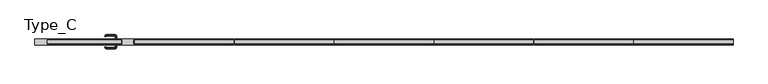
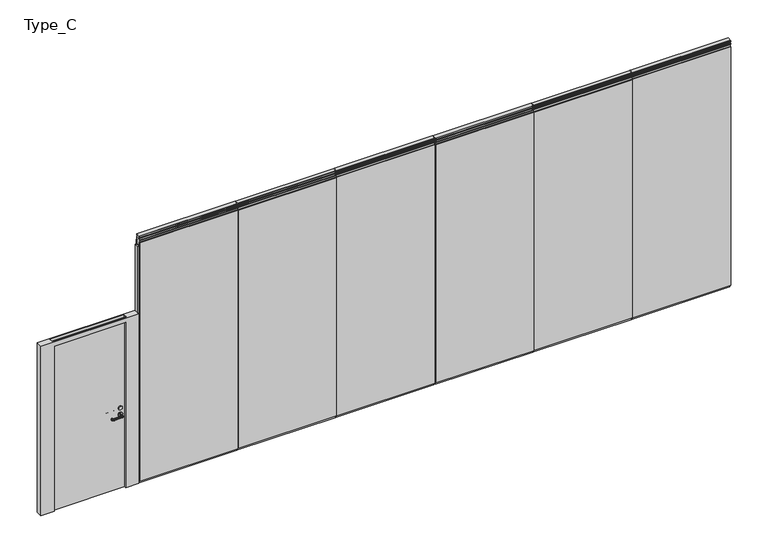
"""IFC4 building model written with IfcOpenShell, lengths in millimetres: proxy geometry, Planner Wall フラッシュパネル(Door) : Type_C."""

from ifc_helpers import new_model, si_unit, point, frame, frame_2d, origin, origin_with_axes, place, context, project, spatial, polyline, circle_curve, ellipse_curve, trimmed, segment, composite_curve, outline, extrude, faceted_brep, source, transform, mapped, element, save
from ifc_brep_helpers import plane_surface, cylinder_surface, revolved_surface, advanced_brep


def type_c_fbdfbec6(model_context):
    return source(origin(), model_context, "Body", "SolidModel", [
        extrude(outline(polyline([(2324.75, 25.0), (1177.125, 25.0), (1177.125, 35.0), (2324.75, 35.0), (2324.75, 25.0)])), frame((0.0, 0.0, 25.0), z_axis=(0.0, 0.0, 1.0), x_axis=(1.0, 0.0, 0.0)), (0.0, 0.0, 1.0), 2950.0),
        extrude(outline(polyline([(2324.75, -35.0), (1177.125, -35.0), (1177.125, -25.0), (2324.75, -25.0), (2324.75, -35.0)])), frame((0.0, 0.0, 25.0), z_axis=(0.0, 0.0, 1.0), x_axis=(1.0, 0.0, 0.0)), (0.0, 0.0, 1.0), 2950.0),
        extrude(outline(polyline([(1177.125, -25.0), (1177.125, 25.0), (2319.25, 25.0), (2319.25, -25.0), (1177.125, -25.0)])), origin_with_axes(), (0.0, 0.0, 1.0), 65.0),
        extrude(outline(composite_curve([segment(polyline([(23.5, 3050.1000003), (26.5, 3047.1000003), (26.5, 3032.6)]), True, "CONTINUOUS"), segment(trimmed(circle_curve(frame_2d((25.0, 3032.6)), 1.5), [point((26.5, 3032.6))], [point((25.0, 3031.1))], False, "CARTESIAN"), True, "CONTINUOUS"), segment(polyline([(25.0, 3031.1), (9.0, 3031.1), (9.0, 3019.1000003), (23.5, 3019.1000003), (26.5, 3016.1000003), (26.5, 3001.5)]), True, "CONTINUOUS"), segment(trimmed(circle_curve(frame_2d((25.0, 3001.5)), 1.5), [point((26.5, 3001.5))], [point((25.0, 3000.0))], False, "CARTESIAN"), True, "CONTINUOUS"), segment(polyline([(25.0, 3000.0), (7.5, 3000.0), (7.5, 2994.5), (25.0, 2994.5), (25.0, 2935.0), (-25.0, 2935.0), (-25.0, 2994.5), (-7.5, 2994.5), (-7.5, 3000.0), (-25.0, 3000.0)]), True, "CONTINUOUS"), segment(trimmed(circle_curve(frame_2d((-25.0, 3001.5)), 1.5), [point((-25.0, 3000.0))], [point((-26.5, 3001.5))], False, "CARTESIAN"), True, "CONTINUOUS"), segment(polyline([(-26.5, 3001.5), (-26.5, 3016.1000003), (-23.5, 3019.1000003), (-9.0, 3019.1000003), (-9.0, 3031.1), (-25.0, 3031.1)]), True, "CONTINUOUS"), segment(trimmed(circle_curve(frame_2d((-25.0, 3032.6)), 1.5), [point((-25.0, 3031.1))], [point((-26.5, 3032.6))], False, "CARTESIAN"), True, "CONTINUOUS"), segment(polyline([(-26.5, 3032.6), (-26.5, 3047.1000003), (-23.5, 3050.1000003), (23.5, 3050.1000003)]), True, "CONTINUOUS")], self_intersect=False)), frame((1177.125, 0.0, 0.0), z_axis=(1.0, 0.0, 0.0), x_axis=(0.0, 1.0, 0.0)), (0.0, 0.0, 1.0), 1147.625),
        extrude(outline(polyline([(1163.625, -25.0), (1163.625, 25.0), (1177.125, 25.0), (1177.125, -25.0), (1163.625, -25.0)])), frame((0.0, 0.0, 53.0), z_axis=(0.0, 0.0, 1.0), x_axis=(1.0, 0.0, 0.0)), (0.0, 0.0, 1.0), 2869.0),
        extrude(outline(polyline([(3480.375, 25.0), (2332.75, 25.0), (2332.75, 35.0), (3480.375, 35.0), (3480.375, 25.0)])), frame((0.0, 0.0, 25.0), z_axis=(0.0, 0.0, 1.0), x_axis=(1.0, 0.0, 0.0)), (0.0, 0.0, 1.0), 2950.0),
        extrude(outline(polyline([(3480.375, -35.0), (2332.75, -35.0), (2332.75, -25.0), (3480.375, -25.0), (3480.375, -35.0)])), frame((0.0, 0.0, 25.0), z_axis=(0.0, 0.0, 1.0), x_axis=(1.0, 0.0, 0.0)), (0.0, 0.0, 1.0), 2950.0),
        extrude(outline(polyline([(2332.75, -25.0), (2332.75, 25.0), (3474.875, 25.0), (3474.875, -25.0), (2332.75, -25.0)])), origin_with_axes(), (0.0, 0.0, 1.0), 65.0),
        extrude(outline(composite_curve([segment(polyline([(23.5, 3050.1000003), (26.5, 3047.1000003), (26.5, 3032.6)]), True, "CONTINUOUS"), segment(trimmed(circle_curve(frame_2d((25.0, 3032.6)), 1.5), [point((26.5, 3032.6))], [point((25.0, 3031.1))], False, "CARTESIAN"), True, "CONTINUOUS"), segment(polyline([(25.0, 3031.1), (9.0, 3031.1), (9.0, 3019.1000003), (23.5, 3019.1000003), (26.5, 3016.1000003), (26.5, 3001.5)]), True, "CONTINUOUS"), segment(trimmed(circle_curve(frame_2d((25.0, 3001.5)), 1.5), [point((26.5, 3001.5))], [point((25.0, 3000.0))], False, "CARTESIAN"), True, "CONTINUOUS"), segment(polyline([(25.0, 3000.0), (7.5, 3000.0), (7.5, 2994.5), (25.0, 2994.5), (25.0, 2935.0), (-25.0, 2935.0), (-25.0, 2994.5), (-7.5, 2994.5), (-7.5, 3000.0), (-25.0, 3000.0)]), True, "CONTINUOUS"), segment(trimmed(circle_curve(frame_2d((-25.0, 3001.5)), 1.5), [point((-25.0, 3000.0))], [point((-26.5, 3001.5))], False, "CARTESIAN"), True, "CONTINUOUS"), segment(polyline([(-26.5, 3001.5), (-26.5, 3016.1000003), (-23.5, 3019.1000003), (-9.0, 3019.1000003), (-9.0, 3031.1), (-25.0, 3031.1)]), True, "CONTINUOUS"), segment(trimmed(circle_curve(frame_2d((-25.0, 3032.6)), 1.5), [point((-25.0, 3031.1))], [point((-26.5, 3032.6))], False, "CARTESIAN"), True, "CONTINUOUS"), segment(polyline([(-26.5, 3032.6), (-26.5, 3047.1000003), (-23.5, 3050.1000003), (23.5, 3050.1000003)]), True, "CONTINUOUS")], self_intersect=False)), frame((2332.75, 0.0, 0.0), z_axis=(1.0, 0.0, 0.0), x_axis=(0.0, 1.0, 0.0)), (0.0, 0.0, 1.0), 1147.625),
        extrude(outline(polyline([(2319.25, -25.0), (2319.25, 25.0), (2332.75, 25.0), (2332.75, -25.0), (2319.25, -25.0)])), frame((0.0, 0.0, 53.0), z_axis=(0.0, 0.0, 1.0), x_axis=(1.0, 0.0, 0.0)), (0.0, 0.0, 1.0), 2869.0),
        extrude(outline(polyline([(4636.0, 25.0), (3488.375, 25.0), (3488.375, 35.0), (4636.0, 35.0), (4636.0, 25.0)])), frame((0.0, 0.0, 25.0), z_axis=(0.0, 0.0, 1.0), x_axis=(1.0, 0.0, 0.0)), (0.0, 0.0, 1.0), 2950.0),
        extrude(outline(polyline([(4636.0, -35.0), (3488.375, -35.0), (3488.375, -25.0), (4636.0, -25.0), (4636.0, -35.0)])), frame((0.0, 0.0, 25.0), z_axis=(0.0, 0.0, 1.0), x_axis=(1.0, 0.0, 0.0)), (0.0, 0.0, 1.0), 2950.0),
        extrude(outline(polyline([(3488.375, -25.0), (3488.375, 25.0), (4630.5, 25.0), (4630.5, -25.0), (3488.375, -25.0)])), origin_with_axes(), (0.0, 0.0, 1.0), 65.0),
        extrude(outline(composite_curve([segment(polyline([(23.5, 3050.1000003), (26.5, 3047.1000003), (26.5, 3032.6)]), True, "CONTINUOUS"), segment(trimmed(circle_curve(frame_2d((25.0, 3032.6)), 1.5), [point((26.5, 3032.6))], [point((25.0, 3031.1))], False, "CARTESIAN"), True, "CONTINUOUS"), segment(polyline([(25.0, 3031.1), (9.0, 3031.1), (9.0, 3019.1000003), (23.5, 3019.1000003), (26.5, 3016.1000003), (26.5, 3001.5)]), True, "CONTINUOUS"), segment(trimmed(circle_curve(frame_2d((25.0, 3001.5)), 1.5), [point((26.5, 3001.5))], [point((25.0, 3000.0))], False, "CARTESIAN"), True, "CONTINUOUS"), segment(polyline([(25.0, 3000.0), (7.5, 3000.0), (7.5, 2994.5), (25.0, 2994.5), (25.0, 2935.0), (-25.0, 2935.0), (-25.0, 2994.5), (-7.5, 2994.5), (-7.5, 3000.0), (-25.0, 3000.0)]), True, "CONTINUOUS"), segment(trimmed(circle_curve(frame_2d((-25.0, 3001.5)), 1.5), [point((-25.0, 3000.0))], [point((-26.5, 3001.5))], False, "CARTESIAN"), True, "CONTINUOUS"), segment(polyline([(-26.5, 3001.5), (-26.5, 3016.1000003), (-23.5, 3019.1000003), (-9.0, 3019.1000003), (-9.0, 3031.1), (-25.0, 3031.1)]), True, "CONTINUOUS"), segment(trimmed(circle_curve(frame_2d((-25.0, 3032.6)), 1.5), [point((-25.0, 3031.1))], [point((-26.5, 3032.6))], False, "CARTESIAN"), True, "CONTINUOUS"), segment(polyline([(-26.5, 3032.6), (-26.5, 3047.1000003), (-23.5, 3050.1000003), (23.5, 3050.1000003)]), True, "CONTINUOUS")], self_intersect=False)), frame((3488.375, 0.0, 0.0), z_axis=(1.0, 0.0, 0.0), x_axis=(0.0, 1.0, 0.0)), (0.0, 0.0, 1.0), 1147.625),
        extrude(outline(polyline([(3474.875, -25.0), (3474.875, 25.0), (3488.375, 25.0), (3488.375, -25.0), (3474.875, -25.0)])), frame((0.0, 0.0, 53.0), z_axis=(0.0, 0.0, 1.0), x_axis=(1.0, 0.0, 0.0)), (0.0, 0.0, 1.0), 2869.0),
        extrude(outline(polyline([(5791.625, 25.0), (4644.0, 25.0), (4644.0, 35.0), (5791.625, 35.0), (5791.625, 25.0)])), frame((0.0, 0.0, 25.0), z_axis=(0.0, 0.0, 1.0), x_axis=(1.0, 0.0, 0.0)), (0.0, 0.0, 1.0), 2950.0),
        extrude(outline(polyline([(5791.625, -35.0), (4644.0, -35.0), (4644.0, -25.0), (5791.625, -25.0), (5791.625, -35.0)])), frame((0.0, 0.0, 25.0), z_axis=(0.0, 0.0, 1.0), x_axis=(1.0, 0.0, 0.0)), (0.0, 0.0, 1.0), 2950.0),
        extrude(outline(polyline([(4644.0, -25.0), (4644.0, 25.0), (5786.125, 25.0), (5786.125, -25.0), (4644.0, -25.0)])), origin_with_axes(), (0.0, 0.0, 1.0), 65.0),
        extrude(outline(composite_curve([segment(polyline([(23.5, 3050.1000003), (26.5, 3047.1000003), (26.5, 3032.6)]), True, "CONTINUOUS"), segment(trimmed(circle_curve(frame_2d((25.0, 3032.6)), 1.5), [point((26.5, 3032.6))], [point((25.0, 3031.1))], False, "CARTESIAN"), True, "CONTINUOUS"), segment(polyline([(25.0, 3031.1), (9.0, 3031.1), (9.0, 3019.1000003), (23.5, 3019.1000003), (26.5, 3016.1000003), (26.5, 3001.5)]), True, "CONTINUOUS"), segment(trimmed(circle_curve(frame_2d((25.0, 3001.5)), 1.5), [point((26.5, 3001.5))], [point((25.0, 3000.0))], False, "CARTESIAN"), True, "CONTINUOUS"), segment(polyline([(25.0, 3000.0), (7.5, 3000.0), (7.5, 2994.5), (25.0, 2994.5), (25.0, 2935.0), (-25.0, 2935.0), (-25.0, 2994.5), (-7.5, 2994.5), (-7.5, 3000.0), (-25.0, 3000.0)]), True, "CONTINUOUS"), segment(trimmed(circle_curve(frame_2d((-25.0, 3001.5)), 1.5), [point((-25.0, 3000.0))], [point((-26.5, 3001.5))], False, "CARTESIAN"), True, "CONTINUOUS"), segment(polyline([(-26.5, 3001.5), (-26.5, 3016.1000003), (-23.5, 3019.1000003), (-9.0, 3019.1000003), (-9.0, 3031.1), (-25.0, 3031.1)]), True, "CONTINUOUS"), segment(trimmed(circle_curve(frame_2d((-25.0, 3032.6)), 1.5), [point((-25.0, 3031.1))], [point((-26.5, 3032.6))], False, "CARTESIAN"), True, "CONTINUOUS"), segment(polyline([(-26.5, 3032.6), (-26.5, 3047.1000003), (-23.5, 3050.1000003), (23.5, 3050.1000003)]), True, "CONTINUOUS")], self_intersect=False)), frame((4644.0, 0.0, 0.0), z_axis=(1.0, 0.0, 0.0), x_axis=(0.0, 1.0, 0.0)), (0.0, 0.0, 1.0), 1147.625),
        extrude(outline(polyline([(4630.5, -25.0), (4630.5, 25.0), (4644.0, 25.0), (4644.0, -25.0), (4630.5, -25.0)])), frame((0.0, 0.0, 53.0), z_axis=(0.0, 0.0, 1.0), x_axis=(1.0, 0.0, 0.0)), (0.0, 0.0, 1.0), 2869.0),
        extrude(outline(polyline([(6947.25, 25.0), (5799.625, 25.0), (5799.625, 35.0), (6947.25, 35.0), (6947.25, 25.0)])), frame((0.0, 0.0, 25.0), z_axis=(0.0, 0.0, 1.0), x_axis=(1.0, 0.0, 0.0)), (0.0, 0.0, 1.0), 2950.0),
        extrude(outline(polyline([(6947.25, -35.0), (5799.625, -35.0), (5799.625, -25.0), (6947.25, -25.0), (6947.25, -35.0)])), frame((0.0, 0.0, 25.0), z_axis=(0.0, 0.0, 1.0), x_axis=(1.0, 0.0, 0.0)), (0.0, 0.0, 1.0), 2950.0),
        extrude(outline(polyline([(5799.625, -25.0), (5799.625, 25.0), (6941.75, 25.0), (6941.75, -25.0), (5799.625, -25.0)])), origin_with_axes(), (0.0, 0.0, 1.0), 65.0),
        extrude(outline(composite_curve([segment(polyline([(23.5, 3050.1000003), (26.5, 3047.1000003), (26.5, 3032.6)]), True, "CONTINUOUS"), segment(trimmed(circle_curve(frame_2d((25.0, 3032.6)), 1.5), [point((26.5, 3032.6))], [point((25.0, 3031.1))], False, "CARTESIAN"), True, "CONTINUOUS"), segment(polyline([(25.0, 3031.1), (9.0, 3031.1), (9.0, 3019.1000003), (23.5, 3019.1000003), (26.5, 3016.1000003), (26.5, 3001.5)]), True, "CONTINUOUS"), segment(trimmed(circle_curve(frame_2d((25.0, 3001.5)), 1.5), [point((26.5, 3001.5))], [point((25.0, 3000.0))], False, "CARTESIAN"), True, "CONTINUOUS"), segment(polyline([(25.0, 3000.0), (7.5, 3000.0), (7.5, 2994.5), (25.0, 2994.5), (25.0, 2935.0), (-25.0, 2935.0), (-25.0, 2994.5), (-7.5, 2994.5), (-7.5, 3000.0), (-25.0, 3000.0)]), True, "CONTINUOUS"), segment(trimmed(circle_curve(frame_2d((-25.0, 3001.5)), 1.5), [point((-25.0, 3000.0))], [point((-26.5, 3001.5))], False, "CARTESIAN"), True, "CONTINUOUS"), segment(polyline([(-26.5, 3001.5), (-26.5, 3016.1000003), (-23.5, 3019.1000003), (-9.0, 3019.1000003), (-9.0, 3031.1), (-25.0, 3031.1)]), True, "CONTINUOUS"), segment(trimmed(circle_curve(frame_2d((-25.0, 3032.6)), 1.5), [point((-25.0, 3031.1))], [point((-26.5, 3032.6))], False, "CARTESIAN"), True, "CONTINUOUS"), segment(polyline([(-26.5, 3032.6), (-26.5, 3047.1000003), (-23.5, 3050.1000003), (23.5, 3050.1000003)]), True, "CONTINUOUS")], self_intersect=False)), frame((5799.625, 0.0, 0.0), z_axis=(1.0, 0.0, 0.0), x_axis=(0.0, 1.0, 0.0)), (0.0, 0.0, 1.0), 1147.625),
        extrude(outline(polyline([(5786.125, -25.0), (5786.125, 25.0), (5799.625, 25.0), (5799.625, -25.0), (5786.125, -25.0)])), frame((0.0, 0.0, 53.0), z_axis=(0.0, 0.0, 1.0), x_axis=(1.0, 0.0, 0.0)), (0.0, 0.0, 1.0), 2869.0),
        extrude(outline(polyline([(8102.875, 25.0), (6955.25, 25.0), (6955.25, 35.0), (8102.875, 35.0), (8102.875, 25.0)])), frame((0.0, 0.0, 25.0), z_axis=(0.0, 0.0, 1.0), x_axis=(1.0, 0.0, 0.0)), (0.0, 0.0, 1.0), 2950.0),
        extrude(outline(polyline([(8102.875, -35.0), (6955.25, -35.0), (6955.25, -25.0), (8102.875, -25.0), (8102.875, -35.0)])), frame((0.0, 0.0, 25.0), z_axis=(0.0, 0.0, 1.0), x_axis=(1.0, 0.0, 0.0)), (0.0, 0.0, 1.0), 2950.0),
        extrude(outline(polyline([(6955.25, -25.0), (6955.25, 25.0), (8097.375, 25.0), (8097.375, -25.0), (6955.25, -25.0)])), origin_with_axes(), (0.0, 0.0, 1.0), 65.0),
        extrude(outline(composite_curve([segment(polyline([(23.5, 3050.1000003), (26.5, 3047.1000003), (26.5, 3032.6)]), True, "CONTINUOUS"), segment(trimmed(circle_curve(frame_2d((25.0, 3032.6)), 1.5), [point((26.5, 3032.6))], [point((25.0, 3031.1))], False, "CARTESIAN"), True, "CONTINUOUS"), segment(polyline([(25.0, 3031.1), (9.0, 3031.1), (9.0, 3019.1000003), (23.5, 3019.1000003), (26.5, 3016.1000003), (26.5, 3001.5)]), True, "CONTINUOUS"), segment(trimmed(circle_curve(frame_2d((25.0, 3001.5)), 1.5), [point((26.5, 3001.5))], [point((25.0, 3000.0))], False, "CARTESIAN"), True, "CONTINUOUS"), segment(polyline([(25.0, 3000.0), (7.5, 3000.0), (7.5, 2994.5), (25.0, 2994.5), (25.0, 2935.0), (-25.0, 2935.0), (-25.0, 2994.5), (-7.5, 2994.5), (-7.5, 3000.0), (-25.0, 3000.0)]), True, "CONTINUOUS"), segment(trimmed(circle_curve(frame_2d((-25.0, 3001.5)), 1.5), [point((-25.0, 3000.0))], [point((-26.5, 3001.5))], False, "CARTESIAN"), True, "CONTINUOUS"), segment(polyline([(-26.5, 3001.5), (-26.5, 3016.1000003), (-23.5, 3019.1000003), (-9.0, 3019.1000003), (-9.0, 3031.1), (-25.0, 3031.1)]), True, "CONTINUOUS"), segment(trimmed(circle_curve(frame_2d((-25.0, 3032.6)), 1.5), [point((-25.0, 3031.1))], [point((-26.5, 3032.6))], False, "CARTESIAN"), True, "CONTINUOUS"), segment(polyline([(-26.5, 3032.6), (-26.5, 3047.1000003), (-23.5, 3050.1000003), (23.5, 3050.1000003)]), True, "CONTINUOUS")], self_intersect=False)), frame((6955.25, 0.0, 0.0), z_axis=(1.0, 0.0, 0.0), x_axis=(0.0, 1.0, 0.0)), (0.0, 0.0, 1.0), 1147.625),
        extrude(outline(polyline([(6941.75, -25.0), (6941.75, 25.0), (6955.25, 25.0), (6955.25, -25.0), (6941.75, -25.0)])), frame((0.0, 0.0, 53.0), z_axis=(0.0, 0.0, 1.0), x_axis=(1.0, 0.0, 0.0)), (0.0, 0.0, 1.0), 2869.0),
        extrude(outline(composite_curve([segment(trimmed(circle_curve(frame_2d((1000.0, 959.125)), 22.0), [point((1000.0, 981.125))], [point((1000.0, 937.125))], False, "CARTESIAN"), True, "CONTINUOUS"), segment(trimmed(circle_curve(frame_2d((1000.0, 959.125)), 22.0), [point((1000.0, 937.125))], [point((1000.0, 981.125))], False, "CARTESIAN"), True, "CONTINUOUS")], self_intersect=False)), frame((0.0, 23.5, 0.0), z_axis=(0.0, 1.0, 0.0), x_axis=(0.0, 0.0, 1.0)), (0.0, 0.0, 1.0), 10.0),
        extrude(outline(composite_curve([segment(trimmed(circle_curve(frame_2d((1000.0, 959.125)), 22.0), [point((1000.0, 981.125))], [point((1000.0, 937.125))], False, "CARTESIAN"), True, "CONTINUOUS"), segment(trimmed(circle_curve(frame_2d((1000.0, 959.125)), 22.0), [point((1000.0, 937.125))], [point((1000.0, 981.125))], False, "CARTESIAN"), True, "CONTINUOUS")], self_intersect=False)), frame((0.0, -26.5, 0.0), z_axis=(0.0, 1.0, 0.0), x_axis=(0.0, 0.0, 1.0)), (0.0, 0.0, 1.0), 10.0),
        advanced_brep(
        [(961.125, 33.5, 930.0), (957.125, 33.5, 930.0), (952.125, 33.5, 925.0), (952.125, 33.5, 915.0477623), (957.125, 33.5, 910.0477623), (961.125, 33.5, 910.0477623), (966.125, 33.5, 915.0477623), (966.125, 33.5, 925.0), (966.125, 68.5, 925.0), (961.125, 68.5, 930.0), (966.125, 68.5, 915.0477623), (961.125, 68.5, 910.0477623), (957.125, 68.5, 910.0477623), (949.125, 76.5, 910.0477623), (849.125, 76.5, 910.0477623), (841.125, 68.5, 910.0477623), (841.125, 63.5, 910.0477623), (837.125, 63.5, 910.0477623), (837.125, 68.5, 910.0477623), (849.125, 80.5, 910.0477623), (949.125, 80.5, 910.0477623), (952.125, 68.5, 915.0477623), (952.125, 68.5, 925.0), (957.125, 68.5, 930.0), (949.125, 80.5, 930.0), (849.125, 80.5, 930.0), (837.125, 68.5, 930.0), (837.125, 63.5, 930.0), (841.125, 63.5, 930.0), (841.125, 68.5, 930.0), (849.125, 76.5, 930.0), (949.125, 76.5, 930.0), (949.125, 85.5, 925.0), (949.125, 85.5, 915.0477623), (949.125, 71.5, 915.0477623), (949.125, 71.5, 925.0), (849.125, 85.5, 925.0), (849.125, 85.5, 915.0477623), (849.125, 71.5, 915.0477623), (849.125, 71.5, 925.0), (832.125, 68.5, 925.0), (832.125, 68.5, 915.0477623), (846.125, 68.5, 915.0477623), (846.125, 68.5, 925.0), (832.125, 63.5, 925.0), (832.125, 63.5, 915.0477623), (846.125, 63.5, 915.0477623), (846.125, 63.5, 925.0)],
        [
            (0, 1),
            (1, 2, circle_curve(frame((957.125, 33.5, 925.0), z_axis=(0.0, -1.0, 0.0), x_axis=(1.0, 0.0, 0.0)), 5.0)),
            (2, 3),
            (3, 4, circle_curve(frame((957.125, 33.5, 915.0477623), z_axis=(0.0, -1.0, 0.0), x_axis=(1.0, 0.0, 0.0)), 5.0)),
            (4, 5),
            (5, 6, circle_curve(frame((961.125, 33.5, 915.0477623), z_axis=(0.0, -1.0, 0.0), x_axis=(1.0, 0.0, 0.0)), 5.0)),
            (6, 7),
            (7, 0, circle_curve(frame((961.125, 33.5, 925.0), z_axis=(0.0, -1.0, 0.0), x_axis=(1.0, 0.0, 0.0)), 5.0)),
            (7, 8),
            (8, 9, circle_curve(frame((961.125, 68.5, 925.0), z_axis=(0.0, -1.0, 0.0), x_axis=(1.0, 0.0, 0.0)), 5.0)),
            (9, 0),
            (6, 10),
            (10, 8),
            (5, 11),
            (11, 10, circle_curve(frame((961.125, 68.5, 915.0477623), z_axis=(0.0, -1.0, 0.0), x_axis=(1.0, 0.0, 0.0)), 5.0)),
            (4, 12),
            (12, 13, circle_curve(frame((949.125, 68.5, 910.0477623), z_axis=(0.0, 0.0, 1.0), x_axis=(1.0, 0.0, 0.0)), 8.0)),
            (13, 14),
            (14, 15, circle_curve(frame((849.125, 68.5, 910.0477623), z_axis=(0.0, 0.0, 1.0), x_axis=(0.0, 1.0, 0.0)), 8.0)),
            (15, 16),
            (16, 17),
            (17, 18),
            (18, 19, circle_curve(frame((849.125, 68.5, 910.0477623), z_axis=(0.0, 0.0, -1.0), x_axis=(0.0, 1.0, 0.0)), 12.0)),
            (19, 20),
            (20, 11, circle_curve(frame((949.125, 68.5, 910.0477623), z_axis=(0.0, 0.0, -1.0), x_axis=(1.0, 0.0, 0.0)), 12.0)),
            (3, 21),
            (21, 12, circle_curve(frame((957.125, 68.5, 915.0477623), z_axis=(0.0, -1.0, 0.0), x_axis=(1.0, 0.0, 0.0)), 5.0)),
            (2, 22),
            (22, 21),
            (1, 23),
            (23, 22, circle_curve(frame((957.125, 68.5, 925.0), z_axis=(0.0, -1.0, 0.0), x_axis=(1.0, 0.0, 0.0)), 5.0)),
            (9, 24, circle_curve(frame((949.125, 68.5, 930.0), z_axis=(0.0, 0.0, 1.0), x_axis=(1.0, 0.0, 0.0)), 12.0)),
            (24, 25),
            (25, 26, circle_curve(frame((849.125, 68.5, 930.0), z_axis=(0.0, 0.0, 1.0), x_axis=(0.0, 1.0, 0.0)), 12.0)),
            (26, 27),
            (27, 28),
            (28, 29),
            (29, 30, circle_curve(frame((849.125, 68.5, 930.0), z_axis=(0.0, 0.0, -1.0), x_axis=(0.0, 1.0, 0.0)), 8.0)),
            (30, 31),
            (31, 23, circle_curve(frame((949.125, 68.5, 930.0), z_axis=(0.0, 0.0, -1.0), x_axis=(1.0, 0.0, 0.0)), 8.0)),
            (32, 24, circle_curve(frame((949.125, 80.5, 925.0), z_axis=(1.0, 0.0, 0.0), x_axis=(0.0, 1.0, 0.0)), 5.0)),
            (8, 32, circle_curve(frame((949.125, 68.5, 925.0), z_axis=(0.0, 0.0, 1.0), x_axis=(1.0, 0.0, 0.0)), 17.0)),
            (33, 32),
            (10, 33, circle_curve(frame((949.125, 68.5, 915.0477623), z_axis=(0.0, 0.0, 1.0), x_axis=(1.0, 0.0, 0.0)), 17.0)),
            (20, 33, circle_curve(frame((949.125, 80.5, 915.0477623), z_axis=(1.0, 0.0, 0.0), x_axis=(0.0, 1.0, 0.0)), 5.0)),
            (34, 13, circle_curve(frame((949.125, 76.5, 915.0477623), z_axis=(1.0, 0.0, 0.0), x_axis=(0.0, 1.0, 0.0)), 5.0)),
            (21, 34, circle_curve(frame((949.125, 68.5, 915.0477623), z_axis=(0.0, 0.0, 1.0), x_axis=(1.0, 0.0, 0.0)), 3.0)),
            (35, 34),
            (22, 35, circle_curve(frame((949.125, 68.5, 925.0), z_axis=(0.0, 0.0, 1.0), x_axis=(1.0, 0.0, 0.0)), 3.0)),
            (31, 35, circle_curve(frame((949.125, 76.5, 925.0), z_axis=(1.0, 0.0, 0.0), x_axis=(0.0, 1.0, 0.0)), 5.0)),
            (32, 36),
            (36, 25, circle_curve(frame((849.125, 80.5, 925.0), z_axis=(1.0, 0.0, 0.0), x_axis=(0.0, 1.0, 0.0)), 5.0)),
            (33, 37),
            (37, 36),
            (19, 37, circle_curve(frame((849.125, 80.5, 915.0477623), z_axis=(1.0, 0.0, 0.0), x_axis=(0.0, 1.0, 0.0)), 5.0)),
            (34, 38),
            (38, 14, circle_curve(frame((849.125, 76.5, 915.0477623), z_axis=(1.0, 0.0, 0.0), x_axis=(0.0, 1.0, 0.0)), 5.0)),
            (35, 39),
            (39, 38),
            (30, 39, circle_curve(frame((849.125, 76.5, 925.0), z_axis=(1.0, 0.0, 0.0), x_axis=(0.0, 1.0, 0.0)), 5.0)),
            (40, 26, circle_curve(frame((837.125, 68.5, 925.0), z_axis=(0.0, 1.0, 0.0), x_axis=(-1.0, 0.0, 0.0)), 5.0)),
            (36, 40, circle_curve(frame((849.125, 68.5, 925.0), z_axis=(0.0, 0.0, 1.0), x_axis=(0.0, 1.0, 0.0)), 17.0)),
            (41, 40),
            (37, 41, circle_curve(frame((849.125, 68.5, 915.0477623), z_axis=(0.0, 0.0, 1.0), x_axis=(0.0, 1.0, 0.0)), 17.0)),
            (18, 41, circle_curve(frame((837.125, 68.5, 915.0477623), z_axis=(0.0, 1.0, 0.0), x_axis=(-1.0, 0.0, 0.0)), 5.0)),
            (42, 15, circle_curve(frame((841.125, 68.5, 915.0477623), z_axis=(0.0, 1.0, 0.0), x_axis=(-1.0, 0.0, 0.0)), 5.0)),
            (38, 42, circle_curve(frame((849.125, 68.5, 915.0477623), z_axis=(0.0, 0.0, 1.0), x_axis=(0.0, 1.0, 0.0)), 3.0)),
            (43, 42),
            (39, 43, circle_curve(frame((849.125, 68.5, 925.0), z_axis=(0.0, 0.0, 1.0), x_axis=(0.0, 1.0, 0.0)), 3.0)),
            (29, 43, circle_curve(frame((841.125, 68.5, 925.0), z_axis=(0.0, 1.0, 0.0), x_axis=(-1.0, 0.0, 0.0)), 5.0)),
            (27, 44, circle_curve(frame((837.125, 63.5, 925.0), z_axis=(0.0, -1.0, 0.0), x_axis=(-1.0, 0.0, 0.0)), 5.0)),
            (44, 45),
            (45, 17, circle_curve(frame((837.125, 63.5, 915.0477623), z_axis=(0.0, -1.0, 0.0), x_axis=(-1.0, 0.0, 0.0)), 5.0)),
            (16, 46, circle_curve(frame((841.125, 63.5, 915.0477623), z_axis=(0.0, -1.0, 0.0), x_axis=(-1.0, 0.0, 0.0)), 5.0)),
            (46, 47),
            (47, 28, circle_curve(frame((841.125, 63.5, 925.0), z_axis=(0.0, -1.0, 0.0), x_axis=(-1.0, 0.0, 0.0)), 5.0)),
            (40, 44),
            (41, 45),
            (42, 46),
            (43, 47),
        ],
        [
            plane_surface(frame((969.323039, 33.5, 920.0), z_axis=(0.0, -1.0, 0.0), x_axis=(0.0, 0.0, 1.0))),
            cylinder_surface(frame((961.125, 33.5, 925.0), z_axis=(0.0, -1.0, 0.0), x_axis=(1.0, 0.0, 0.0)), 5.0),
            plane_surface(frame((966.125, 33.5, 925.0), z_axis=(1.0, 0.0, 0.0), x_axis=(0.0, 1.0, 0.0))),
            cylinder_surface(frame((961.125, 33.5, 915.0477623), z_axis=(0.0, -1.0, 0.0), x_axis=(1.0, 0.0, 0.0)), 5.0),
            plane_surface(frame((961.125, 33.5, 910.0477623), z_axis=(0.0, 0.0, -1.0), x_axis=(0.0, 1.0, 0.0))),
            cylinder_surface(frame((957.125, 33.5, 915.0477623), z_axis=(0.0, -1.0, 0.0), x_axis=(1.0, 0.0, 0.0)), 5.0),
            plane_surface(frame((952.125, 33.5, 915.0477623), z_axis=(-1.0, 0.0, 0.0), x_axis=(0.0, 1.0, 0.0))),
            cylinder_surface(frame((957.125, 33.5, 925.0), z_axis=(0.0, -1.0, 0.0), x_axis=(1.0, 0.0, 0.0)), 5.0),
            plane_surface(frame((957.125, 33.5, 930.0), z_axis=(0.0, 0.0, 1.0), x_axis=(0.0, 1.0, 0.0))),
            revolved_surface(trimmed(ellipse_curve(frame((961.125, 68.5, 925.0), z_axis=(0.0, 1.0, 0.0), x_axis=(1.0, 0.0, 0.0)), 5.0, 5.0), [point((961.125, 68.5, 930.0))], [point((966.125, 68.5, 925.0))], True, "CARTESIAN"), (949.125, 68.5, 920.0), (0.0, 0.0, -1.0)),
            cylinder_surface(frame((949.125, 68.5, 920.0), z_axis=(0.0, 0.0, -1.0), x_axis=(1.0, 0.0, 0.0)), 17.0),
            revolved_surface(trimmed(ellipse_curve(frame((961.125, 68.5, 915.0477623), z_axis=(0.0, 1.0, 0.0), x_axis=(1.0, 0.0, 0.0)), 5.0, 5.0), [point((966.125, 68.5, 915.0477623))], [point((961.125, 68.5, 910.0477623))], True, "CARTESIAN"), (949.125, 68.5, 920.0), (0.0, 0.0, -1.0)),
            revolved_surface(trimmed(ellipse_curve(frame((957.125, 68.5, 915.0477623), z_axis=(0.0, 1.0, 0.0), x_axis=(1.0, 0.0, 0.0)), 5.0, 5.0), [point((957.125, 68.5, 910.0477623))], [point((952.125, 68.5, 915.0477623))], True, "CARTESIAN"), (949.125, 68.5, 920.0), (0.0, 0.0, -1.0)),
            revolved_surface(polyline([(952.125, 68.5, 915.0477623), (952.125, 68.5, 925.0)]), (949.125, 68.5, 920.0), (0.0, 0.0, -1.0)),
            revolved_surface(trimmed(ellipse_curve(frame((957.125, 68.5, 925.0), z_axis=(0.0, 1.0, 0.0), x_axis=(1.0, 0.0, 0.0)), 5.0, 5.0), [point((952.125, 68.5, 925.0))], [point((957.125, 68.5, 930.0))], True, "CARTESIAN"), (949.125, 68.5, 920.0), (0.0, 0.0, -1.0)),
            cylinder_surface(frame((949.125, 80.5, 925.0), z_axis=(1.0, 0.0, 0.0), x_axis=(0.0, 1.0, 0.0)), 5.0),
            plane_surface(frame((949.125, 85.5, 925.0), z_axis=(0.0, 1.0, 0.0), x_axis=(-1.0, 0.0, 0.0))),
            cylinder_surface(frame((949.125, 80.5, 915.0477623), z_axis=(1.0, 0.0, 0.0), x_axis=(0.0, 1.0, 0.0)), 5.0),
            cylinder_surface(frame((949.125, 76.5, 915.0477623), z_axis=(1.0, 0.0, 0.0), x_axis=(0.0, 1.0, 0.0)), 5.0),
            plane_surface(frame((949.125, 71.5, 915.0477623), z_axis=(0.0, -1.0, 0.0), x_axis=(-1.0, 0.0, 0.0))),
            cylinder_surface(frame((949.125, 76.5, 925.0), z_axis=(1.0, 0.0, 0.0), x_axis=(0.0, 1.0, 0.0)), 5.0),
            revolved_surface(trimmed(ellipse_curve(frame((849.125, 80.5, 925.0), z_axis=(-1.0, 0.0, 0.0), x_axis=(0.0, 1.0, 0.0)), 5.0, 5.0), [point((849.125, 80.5, 930.0))], [point((849.125, 85.5, 925.0))], True, "CARTESIAN"), (849.125, 68.5, 920.0), (0.0, 0.0, -1.0)),
            cylinder_surface(frame((849.125, 68.5, 920.0), z_axis=(0.0, 0.0, -1.0), x_axis=(0.0, 1.0, 0.0)), 17.0),
            revolved_surface(trimmed(ellipse_curve(frame((849.125, 80.5, 915.0477623), z_axis=(-1.0, 0.0, 0.0), x_axis=(0.0, 1.0, 0.0)), 5.0, 5.0), [point((849.125, 85.5, 915.0477623))], [point((849.125, 80.5, 910.0477623))], True, "CARTESIAN"), (849.125, 68.5, 920.0), (0.0, 0.0, -1.0)),
            revolved_surface(trimmed(ellipse_curve(frame((849.125, 76.5, 915.0477623), z_axis=(-1.0, 0.0, 0.0), x_axis=(0.0, 1.0, 0.0)), 5.0, 5.0), [point((849.125, 76.5, 910.0477623))], [point((849.125, 71.5, 915.0477623))], True, "CARTESIAN"), (849.125, 68.5, 920.0), (0.0, 0.0, -1.0)),
            revolved_surface(polyline([(849.125, 71.5, 915.0477623), (849.125, 71.5, 925.0)]), (849.125, 68.5, 920.0), (0.0, 0.0, -1.0)),
            revolved_surface(trimmed(ellipse_curve(frame((849.125, 76.5, 925.0), z_axis=(-1.0, 0.0, 0.0), x_axis=(0.0, 1.0, 0.0)), 5.0, 5.0), [point((849.125, 71.5, 925.0))], [point((849.125, 76.5, 930.0))], True, "CARTESIAN"), (849.125, 68.5, 920.0), (0.0, 0.0, -1.0)),
            plane_surface(frame((849.323039, 63.5, 920.0), z_axis=(0.0, -1.0, 0.0), x_axis=(0.0, 0.0, -1.0))),
            cylinder_surface(frame((837.125, 68.5, 925.0), z_axis=(0.0, 1.0, 0.0), x_axis=(-1.0, 0.0, 0.0)), 5.0),
            plane_surface(frame((832.125, 68.5, 925.0), z_axis=(-1.0, 0.0, 0.0), x_axis=(0.0, -1.0, 0.0))),
            cylinder_surface(frame((837.125, 68.5, 915.0477623), z_axis=(0.0, 1.0, 0.0), x_axis=(-1.0, 0.0, 0.0)), 5.0),
            cylinder_surface(frame((841.125, 68.5, 915.0477623), z_axis=(0.0, 1.0, 0.0), x_axis=(-1.0, 0.0, 0.0)), 5.0),
            plane_surface(frame((846.125, 68.5, 915.0477623), z_axis=(1.0, 0.0, 0.0), x_axis=(0.0, -1.0, 0.0))),
            cylinder_surface(frame((841.125, 68.5, 925.0), z_axis=(0.0, 1.0, 0.0), x_axis=(-1.0, 0.0, 0.0)), 5.0),
        ],
        [
            (0, [[1, 2, 3, 4, 5, 6, 7, 8]]),
            (1, [[9, 10, 11, -8]]),
            (2, [[12, 13, -9, -7]]),
            (3, [[14, 15, -12, -6]]),
            (4, [[16, 17, 18, 19, 20, 21, 22, 23, 24, 25, -14, -5]]),
            (5, [[26, 27, -16, -4]]),
            (6, [[28, 29, -26, -3]]),
            (7, [[30, 31, -28, -2]]),
            (8, [[-11, 32, 33, 34, 35, 36, 37, 38, 39, 40, -30, -1]]),
            (9, [[41, -32, -10, 42]]),
            (10, [[43, -42, -13, 44]]),
            (11, [[45, -44, -15, -25]]),
            (12, [[46, -17, -27, 47]]),
            (13, [[48, -47, -29, 49]]),
            (14, [[50, -49, -31, -40]]),
            (15, [[51, 52, -33, -41]]),
            (16, [[53, 54, -51, -43]]),
            (17, [[-24, 55, -53, -45]]),
            (18, [[56, 57, -18, -46]]),
            (19, [[58, 59, -56, -48]]),
            (20, [[-39, 60, -58, -50]]),
            (21, [[61, -34, -52, 62]]),
            (22, [[63, -62, -54, 64]]),
            (23, [[65, -64, -55, -23]]),
            (24, [[66, -19, -57, 67]]),
            (25, [[68, -67, -59, 69]]),
            (26, [[70, -69, -60, -38]]),
            (27, [[71, 72, 73, -21, 74, 75, 76, -36]]),
            (28, [[77, -71, -35, -61]]),
            (29, [[78, -72, -77, -63]]),
            (30, [[-22, -73, -78, -65]]),
            (31, [[79, -74, -20, -66]]),
            (32, [[80, -75, -79, -68]]),
            (33, [[-37, -76, -80, -70]]),
        ],
    ),
        advanced_brep(
        [(957.125, -26.5, 910.0), (952.125, -26.5, 915.0), (952.125, -26.5, 925.0), (957.125, -26.5, 930.0), (961.125, -26.5, 930.0), (966.125, -26.5, 925.0), (966.125, -26.5, 915.0), (961.125, -26.5, 910.0), (961.125, -61.5, 910.0), (949.125, -73.5, 910.0), (849.125, -73.5, 910.0), (837.125, -61.5, 910.0), (837.125, -56.5, 910.0), (841.125, -56.5, 910.0), (841.125, -61.5, 910.0), (849.125, -69.5, 910.0), (949.125, -69.5, 910.0), (957.125, -61.5, 910.0), (966.125, -61.5, 915.0), (966.125, -61.5, 925.0), (961.125, -61.5, 930.0), (957.125, -61.5, 930.0), (949.125, -69.5, 930.0), (849.125, -69.5, 930.0), (841.125, -61.5, 930.0), (841.125, -56.5, 930.0), (837.125, -56.5, 930.0), (837.125, -61.5, 930.0), (849.125, -73.5, 930.0), (949.125, -73.5, 930.0), (952.125, -61.5, 925.0), (952.125, -61.5, 915.0), (949.125, -78.5, 915.0), (949.125, -78.5, 925.0), (949.125, -64.5, 925.0), (949.125, -64.5, 915.0), (849.125, -78.5, 915.0), (849.125, -78.5, 925.0), (849.125, -64.5, 925.0), (849.125, -64.5, 915.0), (832.125, -61.5, 915.0), (832.125, -61.5, 925.0), (846.125, -61.5, 925.0), (846.125, -61.5, 915.0), (832.125, -56.5, 915.0), (832.125, -56.5, 925.0), (846.125, -56.5, 925.0), (846.125, -56.5, 915.0)],
        [
            (0, 1, circle_curve(frame((957.125, -26.5, 915.0), z_axis=(0.0, 1.0, 0.0), x_axis=(-1.0, 0.0, 0.0)), 5.0)),
            (1, 2),
            (2, 3, circle_curve(frame((957.125, -26.5, 925.0), z_axis=(0.0, 1.0, 0.0), x_axis=(-1.0, 0.0, 0.0)), 5.0)),
            (3, 4),
            (4, 5, circle_curve(frame((961.125, -26.5, 925.0), z_axis=(0.0, 1.0, 0.0), x_axis=(-1.0, 0.0, 0.0)), 5.0)),
            (5, 6),
            (6, 7, circle_curve(frame((961.125, -26.5, 915.0), z_axis=(0.0, 1.0, 0.0), x_axis=(-1.0, 0.0, 0.0)), 5.0)),
            (7, 0),
            (7, 8),
            (8, 9, circle_curve(frame((949.125, -61.5, 910.0), z_axis=(0.0, 0.0, -1.0), x_axis=(1.0, 0.0, 0.0)), 12.0)),
            (9, 10),
            (10, 11, circle_curve(frame((849.125, -61.5, 910.0), z_axis=(0.0, 0.0, -1.0), x_axis=(0.0, -1.0, 0.0)), 12.0)),
            (11, 12),
            (12, 13),
            (13, 14),
            (14, 15, circle_curve(frame((849.125, -61.5, 910.0), z_axis=(0.0, 0.0, 1.0), x_axis=(0.0, -1.0, 0.0)), 8.0)),
            (15, 16),
            (16, 17, circle_curve(frame((949.125, -61.5, 910.0), z_axis=(0.0, 0.0, 1.0), x_axis=(1.0, 0.0, 0.0)), 8.0)),
            (17, 0),
            (6, 18),
            (18, 8, circle_curve(frame((961.125, -61.5, 915.0), z_axis=(0.0, 1.0, 0.0), x_axis=(-1.0, 0.0, 0.0)), 5.0)),
            (5, 19),
            (19, 18),
            (4, 20),
            (20, 19, circle_curve(frame((961.125, -61.5, 925.0), z_axis=(0.0, 1.0, 0.0), x_axis=(-1.0, 0.0, 0.0)), 5.0)),
            (3, 21),
            (21, 22, circle_curve(frame((949.125, -61.5, 930.0), z_axis=(0.0, 0.0, -1.0), x_axis=(1.0, 0.0, 0.0)), 8.0)),
            (22, 23),
            (23, 24, circle_curve(frame((849.125, -61.5, 930.0), z_axis=(0.0, 0.0, -1.0), x_axis=(0.0, -1.0, 0.0)), 8.0)),
            (24, 25),
            (25, 26),
            (26, 27),
            (27, 28, circle_curve(frame((849.125, -61.5, 930.0), z_axis=(0.0, 0.0, 1.0), x_axis=(0.0, -1.0, 0.0)), 12.0)),
            (28, 29),
            (29, 20, circle_curve(frame((949.125, -61.5, 930.0), z_axis=(0.0, 0.0, 1.0), x_axis=(1.0, 0.0, 0.0)), 12.0)),
            (2, 30),
            (30, 21, circle_curve(frame((957.125, -61.5, 925.0), z_axis=(0.0, 1.0, 0.0), x_axis=(-1.0, 0.0, 0.0)), 5.0)),
            (1, 31),
            (31, 30),
            (17, 31, circle_curve(frame((957.125, -61.5, 915.0), z_axis=(0.0, 1.0, 0.0), x_axis=(-1.0, 0.0, 0.0)), 5.0)),
            (32, 9, circle_curve(frame((949.125, -73.5, 915.0), z_axis=(1.0, 0.0, 0.0), x_axis=(0.0, 1.0, 0.0)), 5.0)),
            (18, 32, circle_curve(frame((949.125, -61.5, 915.0), z_axis=(0.0, 0.0, -1.0), x_axis=(1.0, 0.0, 0.0)), 17.0)),
            (33, 32),
            (19, 33, circle_curve(frame((949.125, -61.5, 925.0), z_axis=(0.0, 0.0, -1.0), x_axis=(1.0, 0.0, 0.0)), 17.0)),
            (29, 33, circle_curve(frame((949.125, -73.5, 925.0), z_axis=(1.0, 0.0, 0.0), x_axis=(0.0, 1.0, 0.0)), 5.0)),
            (34, 22, circle_curve(frame((949.125, -69.5, 925.0), z_axis=(1.0, 0.0, 0.0), x_axis=(0.0, 1.0, 0.0)), 5.0)),
            (30, 34, circle_curve(frame((949.125, -61.5, 925.0), z_axis=(0.0, 0.0, -1.0), x_axis=(1.0, 0.0, 0.0)), 3.0)),
            (35, 34),
            (31, 35, circle_curve(frame((949.125, -61.5, 915.0), z_axis=(0.0, 0.0, -1.0), x_axis=(1.0, 0.0, 0.0)), 3.0)),
            (16, 35, circle_curve(frame((949.125, -69.5, 915.0), z_axis=(1.0, 0.0, 0.0), x_axis=(0.0, 1.0, 0.0)), 5.0)),
            (32, 36),
            (36, 10, circle_curve(frame((849.125, -73.5, 915.0), z_axis=(1.0, 0.0, 0.0), x_axis=(0.0, 1.0, 0.0)), 5.0)),
            (33, 37),
            (37, 36),
            (28, 37, circle_curve(frame((849.125, -73.5, 925.0), z_axis=(1.0, 0.0, 0.0), x_axis=(0.0, 1.0, 0.0)), 5.0)),
            (34, 38),
            (38, 23, circle_curve(frame((849.125, -69.5, 925.0), z_axis=(1.0, 0.0, 0.0), x_axis=(0.0, 1.0, 0.0)), 5.0)),
            (35, 39),
            (39, 38),
            (15, 39, circle_curve(frame((849.125, -69.5, 915.0), z_axis=(1.0, 0.0, 0.0), x_axis=(0.0, 1.0, 0.0)), 5.0)),
            (40, 11, circle_curve(frame((837.125, -61.5, 915.0), z_axis=(0.0, -1.0, 0.0), x_axis=(1.0, 0.0, 0.0)), 5.0)),
            (36, 40, circle_curve(frame((849.125, -61.5, 915.0), z_axis=(0.0, 0.0, -1.0), x_axis=(0.0, -1.0, 0.0)), 17.0)),
            (41, 40),
            (37, 41, circle_curve(frame((849.125, -61.5, 925.0), z_axis=(0.0, 0.0, -1.0), x_axis=(0.0, -1.0, 0.0)), 17.0)),
            (27, 41, circle_curve(frame((837.125, -61.5, 925.0), z_axis=(0.0, -1.0, 0.0), x_axis=(1.0, 0.0, 0.0)), 5.0)),
            (42, 24, circle_curve(frame((841.125, -61.5, 925.0), z_axis=(0.0, -1.0, 0.0), x_axis=(1.0, 0.0, 0.0)), 5.0)),
            (38, 42, circle_curve(frame((849.125, -61.5, 925.0), z_axis=(0.0, 0.0, -1.0), x_axis=(0.0, -1.0, 0.0)), 3.0)),
            (43, 42),
            (39, 43, circle_curve(frame((849.125, -61.5, 915.0), z_axis=(0.0, 0.0, -1.0), x_axis=(0.0, -1.0, 0.0)), 3.0)),
            (14, 43, circle_curve(frame((841.125, -61.5, 915.0), z_axis=(0.0, -1.0, 0.0), x_axis=(1.0, 0.0, 0.0)), 5.0)),
            (12, 44, circle_curve(frame((837.125, -56.5, 915.0), z_axis=(0.0, 1.0, 0.0), x_axis=(1.0, 0.0, 0.0)), 5.0)),
            (44, 45),
            (45, 26, circle_curve(frame((837.125, -56.5, 925.0), z_axis=(0.0, 1.0, 0.0), x_axis=(1.0, 0.0, 0.0)), 5.0)),
            (25, 46, circle_curve(frame((841.125, -56.5, 925.0), z_axis=(0.0, 1.0, 0.0), x_axis=(1.0, 0.0, 0.0)), 5.0)),
            (46, 47),
            (47, 13, circle_curve(frame((841.125, -56.5, 915.0), z_axis=(0.0, 1.0, 0.0), x_axis=(1.0, 0.0, 0.0)), 5.0)),
            (40, 44),
            (41, 45),
            (42, 46),
            (43, 47),
        ],
        [
            plane_surface(frame((969.323039, -26.5, 920.0), z_axis=(0.0, 1.0, 0.0), x_axis=(0.0, 0.0, -1.0))),
            plane_surface(frame((957.125, -26.5, 910.0), z_axis=(0.0, 0.0, -1.0), x_axis=(0.0, -1.0, 0.0))),
            cylinder_surface(frame((961.125, -26.5, 915.0), z_axis=(0.0, 1.0, 0.0), x_axis=(-1.0, 0.0, 0.0)), 5.0),
            plane_surface(frame((966.125, -26.5, 915.0), z_axis=(1.0, 0.0, 0.0), x_axis=(0.0, -1.0, 0.0))),
            cylinder_surface(frame((961.125, -26.5, 925.0), z_axis=(0.0, 1.0, 0.0), x_axis=(-1.0, 0.0, 0.0)), 5.0),
            plane_surface(frame((961.125, -26.5, 930.0), z_axis=(0.0, 0.0, 1.0), x_axis=(0.0, -1.0, 0.0))),
            cylinder_surface(frame((957.125, -26.5, 925.0), z_axis=(0.0, 1.0, 0.0), x_axis=(-1.0, 0.0, 0.0)), 5.0),
            plane_surface(frame((952.125, -26.5, 925.0), z_axis=(-1.0, 0.0, 0.0), x_axis=(0.0, -1.0, 0.0))),
            cylinder_surface(frame((957.125, -26.5, 915.0), z_axis=(0.0, 1.0, 0.0), x_axis=(-1.0, 0.0, 0.0)), 5.0),
            revolved_surface(trimmed(ellipse_curve(frame((961.125, -61.5, 915.0), z_axis=(0.0, -1.0, 0.0), x_axis=(-1.0, 0.0, 0.0)), 5.0, 5.0), [point((961.125, -61.5, 910.0))], [point((966.125, -61.5, 915.0))], True, "CARTESIAN"), (949.125, -61.5, 920.0), (0.0, 0.0, 1.0)),
            cylinder_surface(frame((949.125, -61.5, 920.0), z_axis=(0.0, 0.0, 1.0), x_axis=(1.0, 0.0, 0.0)), 17.0),
            revolved_surface(trimmed(ellipse_curve(frame((961.125, -61.5, 925.0), z_axis=(0.0, -1.0, 0.0), x_axis=(-1.0, 0.0, 0.0)), 5.0, 5.0), [point((966.125, -61.5, 925.0))], [point((961.125, -61.5, 930.0))], True, "CARTESIAN"), (949.125, -61.5, 920.0), (0.0, 0.0, 1.0)),
            revolved_surface(trimmed(ellipse_curve(frame((957.125, -61.5, 925.0), z_axis=(0.0, -1.0, 0.0), x_axis=(-1.0, 0.0, 0.0)), 5.0, 5.0), [point((957.125, -61.5, 930.0))], [point((952.125, -61.5, 925.0))], True, "CARTESIAN"), (949.125, -61.5, 920.0), (0.0, 0.0, 1.0)),
            revolved_surface(polyline([(952.125, -61.5, 925.0), (952.125, -61.5, 915.0)]), (949.125, -61.5, 920.0), (0.0, 0.0, 1.0)),
            revolved_surface(trimmed(ellipse_curve(frame((957.125, -61.5, 915.0), z_axis=(0.0, -1.0, 0.0), x_axis=(-1.0, 0.0, 0.0)), 5.0, 5.0), [point((952.125, -61.5, 915.0))], [point((957.125, -61.5, 910.0))], True, "CARTESIAN"), (949.125, -61.5, 920.0), (0.0, 0.0, 1.0)),
            cylinder_surface(frame((949.125, -73.5, 915.0), z_axis=(1.0, 0.0, 0.0), x_axis=(0.0, 1.0, 0.0)), 5.0),
            plane_surface(frame((949.125, -78.5, 915.0), z_axis=(0.0, -1.0, 0.0), x_axis=(-1.0, 0.0, 0.0))),
            cylinder_surface(frame((949.125, -73.5, 925.0), z_axis=(1.0, 0.0, 0.0), x_axis=(0.0, 1.0, 0.0)), 5.0),
            cylinder_surface(frame((949.125, -69.5, 925.0), z_axis=(1.0, 0.0, 0.0), x_axis=(0.0, 1.0, 0.0)), 5.0),
            plane_surface(frame((949.125, -64.5, 925.0), z_axis=(0.0, 1.0, 0.0), x_axis=(-1.0, 0.0, 0.0))),
            cylinder_surface(frame((949.125, -69.5, 915.0), z_axis=(1.0, 0.0, 0.0), x_axis=(0.0, 1.0, 0.0)), 5.0),
            revolved_surface(trimmed(ellipse_curve(frame((849.125, -73.5, 915.0), z_axis=(-1.0, 0.0, 0.0), x_axis=(0.0, 1.0, 0.0)), 5.0, 5.0), [point((849.125, -73.5, 910.0))], [point((849.125, -78.5, 915.0))], True, "CARTESIAN"), (849.125, -61.5, 920.0), (0.0, 0.0, 1.0)),
            cylinder_surface(frame((849.125, -61.5, 920.0), z_axis=(0.0, 0.0, 1.0), x_axis=(0.0, -1.0, 0.0)), 17.0),
            revolved_surface(trimmed(ellipse_curve(frame((849.125, -73.5, 925.0), z_axis=(-1.0, 0.0, 0.0), x_axis=(0.0, 1.0, 0.0)), 5.0, 5.0), [point((849.125, -78.5, 925.0))], [point((849.125, -73.5, 930.0))], True, "CARTESIAN"), (849.125, -61.5, 920.0), (0.0, 0.0, 1.0)),
            revolved_surface(trimmed(ellipse_curve(frame((849.125, -69.5, 925.0), z_axis=(-1.0, 0.0, 0.0), x_axis=(0.0, 1.0, 0.0)), 5.0, 5.0), [point((849.125, -69.5, 930.0))], [point((849.125, -64.5, 925.0))], True, "CARTESIAN"), (849.125, -61.5, 920.0), (0.0, 0.0, 1.0)),
            revolved_surface(polyline([(849.125, -64.5, 925.0), (849.125, -64.5, 915.0)]), (849.125, -61.5, 920.0), (0.0, 0.0, 1.0)),
            revolved_surface(trimmed(ellipse_curve(frame((849.125, -69.5, 915.0), z_axis=(-1.0, 0.0, 0.0), x_axis=(0.0, 1.0, 0.0)), 5.0, 5.0), [point((849.125, -64.5, 915.0))], [point((849.125, -69.5, 910.0))], True, "CARTESIAN"), (849.125, -61.5, 920.0), (0.0, 0.0, 1.0)),
            plane_surface(frame((849.323039, -56.5, 920.0), z_axis=(0.0, 1.0, 0.0), x_axis=(0.0, 0.0, 1.0))),
            cylinder_surface(frame((837.125, -61.5, 915.0), z_axis=(0.0, -1.0, 0.0), x_axis=(1.0, 0.0, 0.0)), 5.0),
            plane_surface(frame((832.125, -61.5, 915.0), z_axis=(-1.0, 0.0, 0.0), x_axis=(0.0, 1.0, 0.0))),
            cylinder_surface(frame((837.125, -61.5, 925.0), z_axis=(0.0, -1.0, 0.0), x_axis=(1.0, 0.0, 0.0)), 5.0),
            cylinder_surface(frame((841.125, -61.5, 925.0), z_axis=(0.0, -1.0, 0.0), x_axis=(1.0, 0.0, 0.0)), 5.0),
            plane_surface(frame((846.125, -61.5, 925.0), z_axis=(1.0, 0.0, 0.0), x_axis=(0.0, 1.0, 0.0))),
            cylinder_surface(frame((841.125, -61.5, 915.0), z_axis=(0.0, -1.0, 0.0), x_axis=(1.0, 0.0, 0.0)), 5.0),
        ],
        [
            (0, [[1, 2, 3, 4, 5, 6, 7, 8]]),
            (1, [[9, 10, 11, 12, 13, 14, 15, 16, 17, 18, 19, -8]]),
            (2, [[20, 21, -9, -7]]),
            (3, [[22, 23, -20, -6]]),
            (4, [[24, 25, -22, -5]]),
            (5, [[26, 27, 28, 29, 30, 31, 32, 33, 34, 35, -24, -4]]),
            (6, [[36, 37, -26, -3]]),
            (7, [[38, 39, -36, -2]]),
            (8, [[-19, 40, -38, -1]]),
            (9, [[41, -10, -21, 42]]),
            (10, [[43, -42, -23, 44]]),
            (11, [[45, -44, -25, -35]]),
            (12, [[46, -27, -37, 47]]),
            (13, [[48, -47, -39, 49]]),
            (14, [[50, -49, -40, -18]]),
            (15, [[51, 52, -11, -41]]),
            (16, [[53, 54, -51, -43]]),
            (17, [[-34, 55, -53, -45]]),
            (18, [[56, 57, -28, -46]]),
            (19, [[58, 59, -56, -48]]),
            (20, [[-17, 60, -58, -50]]),
            (21, [[61, -12, -52, 62]]),
            (22, [[63, -62, -54, 64]]),
            (23, [[65, -64, -55, -33]]),
            (24, [[66, -29, -57, 67]]),
            (25, [[68, -67, -59, 69]]),
            (26, [[70, -69, -60, -16]]),
            (27, [[-14, 71, 72, 73, -31, 74, 75, 76]]),
            (28, [[77, -71, -13, -61]]),
            (29, [[78, -72, -77, -63]]),
            (30, [[-32, -73, -78, -65]]),
            (31, [[79, -74, -30, -66]]),
            (32, [[80, -75, -79, -68]]),
            (33, [[-15, -76, -80, -70]]),
        ],
    ),
        extrude(outline(composite_curve([segment(trimmed(circle_curve(frame_2d((920.0, 959.125)), 25.0), [point((920.0, 984.125))], [point((920.0, 934.125))], False, "CARTESIAN"), True, "CONTINUOUS"), segment(trimmed(circle_curve(frame_2d((920.0, 959.125)), 25.0), [point((920.0, 934.125))], [point((920.0, 984.125))], False, "CARTESIAN"), True, "CONTINUOUS")], self_intersect=False)), frame((0.0, 23.5, 0.0), z_axis=(0.0, 1.0, 0.0), x_axis=(0.0, 0.0, 1.0)), (0.0, 0.0, 1.0), 10.0),
        extrude(outline(composite_curve([segment(trimmed(circle_curve(frame_2d((920.0, 959.125)), 25.0), [point((920.0, 984.125))], [point((920.0, 934.125))], False, "CARTESIAN"), True, "CONTINUOUS"), segment(trimmed(circle_curve(frame_2d((920.0, 959.125)), 25.0), [point((920.0, 934.125))], [point((920.0, 984.125))], False, "CARTESIAN"), True, "CONTINUOUS")], self_intersect=False)), frame((0.0, -26.5, 0.0), z_axis=(0.0, 1.0, 0.0), x_axis=(0.0, 0.0, 1.0)), (0.0, 0.0, 1.0), 10.0),
        extrude(outline(polyline([(1023.125, -16.5), (166.5, -16.5), (166.5, 23.5), (1023.125, 23.5), (1023.125, -16.5)])), origin_with_axes(), (0.0, 0.0, 1.0), 2062.0),
        faceted_brep([(21.5, -35.0, 0.0), (21.5, 35.0, 0.0), (154.0, 35.0, 0.0), (154.0, 26.0, 0.0), (162.5, 26.0, 0.0), (162.5, -20.5, 0.0), (177.5, -20.5, 0.0), (177.5, -35.0, 0.0), (1036.625, 35.0, 0.0), (1169.125, 35.0, 0.0), (1169.125, 25.0, 0.0), (1163.625, 25.0, 0.0), (1163.625, -25.0, 0.0), (1169.125, -25.0, 0.0), (1169.125, -35.0, 0.0), (1013.125, -35.0, 0.0), (1013.125, -20.5, 0.0), (1028.125, -20.5, 0.0), (1028.125, 26.0, 0.0), (1036.625, 26.0, 0.0), (21.5, 35.0, 2100.0), (21.5, -35.0, 2100.0), (1169.125, -35.0, 2100.0), (1169.125, -25.0, 2100.0), (1163.625, -25.0, 2100.0), (1163.625, 25.0, 2100.0), (1169.125, 25.0, 2100.0), (1169.125, 35.0, 2100.0), (177.5, -20.5, 2100.0), (162.5, -20.5, 2100.0), (162.5, 25.0, 2100.0), (1028.125, 25.0, 2100.0), (1028.125, -20.5, 2100.0), (1013.125, -20.5, 2100.0), (1013.125, -25.0, 2100.0), (177.5, -25.0, 2100.0), (1036.625, 35.0, 2066.0), (154.0, 35.0, 2066.0), (154.0, 26.0, 2066.0), (162.5, 26.0, 2066.0), (162.5, 25.0, 2066.0), (177.5, -25.0, 2046.0), (177.5, -35.0, 2046.0), (1013.125, -35.0, 2046.0), (1013.125, -25.0, 2046.0), (1028.125, 25.0, 2066.0), (1028.125, 26.0, 2066.0), (1036.625, 26.0, 2066.0)], [[[0, 1, 2, 3, 4, 5, 6, 7]], [[8, 9, 10, 11, 12, 13, 14, 15, 16, 17, 18, 19]], [[20, 21, 22, 23, 24, 25, 26, 27], [28, 29, 30, 31, 32, 33, 34, 35]], [[1, 0, 21, 20]], [[2, 1, 20, 27, 9, 8, 36, 37]], [[3, 2, 37, 38]], [[4, 3, 38, 39]], [[5, 4, 39, 40, 30, 29]], [[6, 5, 29, 28]], [[7, 6, 28, 35, 41, 42]], [[0, 7, 42, 43, 15, 14, 22, 21]], [[10, 9, 27, 26]], [[11, 10, 26, 25]], [[12, 11, 25, 24]], [[13, 12, 24, 23]], [[14, 13, 23, 22]], [[16, 15, 43, 44, 34, 33]], [[17, 16, 33, 32]], [[18, 17, 32, 31, 45, 46]], [[19, 18, 46, 47]], [[8, 19, 47, 36]], [[43, 42, 41, 44]], [[35, 34, 44, 41]], [[31, 30, 40, 45]], [[37, 36, 47, 46, 45, 40, 39, 38]]]),
    ])


if __name__ == "__main__":
    model = new_model("IFC4")
    model_context = context("Model", 3, world=origin())
    ifc_project = project(units=[si_unit("LENGTHUNIT", "METRE", prefix="MILLI")], contexts=[model_context])
    site = spatial("IfcSite", under=ifc_project)
    building = spatial("IfcBuilding", under=site)
    placement = place(None, origin())
    type_c_shape = type_c_fbdfbec6(model_context)
    element("IfcBuildingElementProxy", 1, Name="Planner Wall フラッシュパネル(Door) : Type_C", ObjectType="Planner Wall フラッシュパネル(Door) : Type_C", at=placement, inside=building, context=model_context, shape_type="MappedRepresentation", body=[
        mapped(type_c_shape, transform((0.0, 0.0, 0.0), x_axis=(1.0, 0.0, 0.0), y_axis=(0.0, 1.0, 0.0), z_axis=(0.0, 0.0, 1.0))),
    ])
    save(model, "model.ifc")
